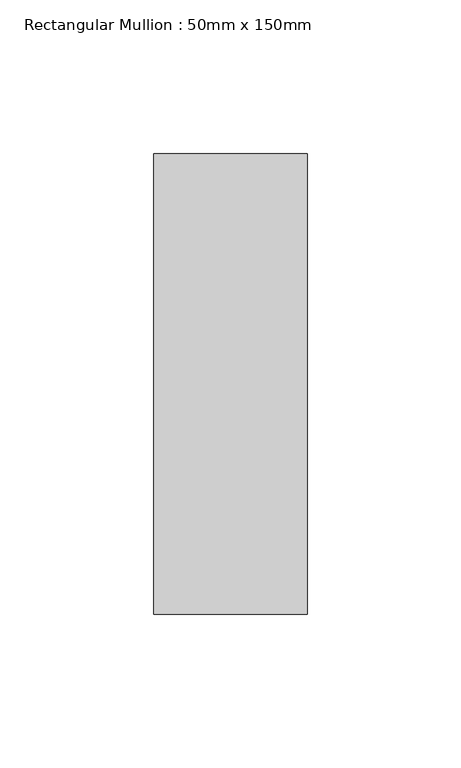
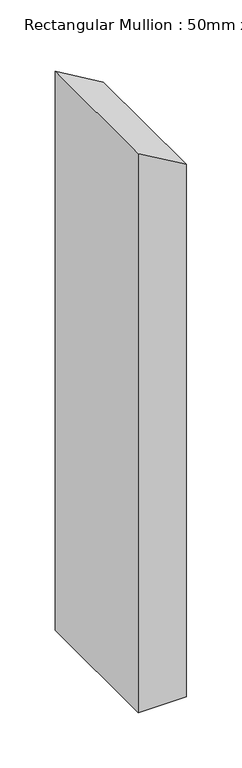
"""IFC4 building model written with IfcOpenShell, lengths in millimetres: member geometry, Rectangular Mullion : 50mm x 150mm."""

from ifc_helpers import new_model, si_unit, frame, origin, place, context, project, spatial, polyline, outline, extrude, source, transform, mapped, element, save


def rectangular_mullion_50mm_x_150mm_a76007e2(model_context):
    return source(origin(), model_context, "Body", "SweptSolid", [
        extrude(outline(polyline([(-72.7372881, 25.0), (-43.3033439, -25.0), (-659.844629, -25.0), (-659.844629, 25.0), (-72.7372881, 25.0)])), frame((0.0, -75.0, 0.0), z_axis=(0.0, 1.0, 0.0), x_axis=(0.0, 0.0, 1.0)), (0.0, 0.0, 1.0), 150.0),
    ])


if __name__ == "__main__":
    model = new_model("IFC4")
    model_context = context("Model", 3, world=origin())
    ifc_project = project(units=[si_unit("LENGTHUNIT", "METRE", prefix="MILLI")], contexts=[model_context])
    site = spatial("IfcSite", under=ifc_project)
    building = spatial("IfcBuilding", under=site)
    placement = place(None, origin())
    rectangular_mullion_50mm_x_150mm_shape = rectangular_mullion_50mm_x_150mm_a76007e2(model_context)
    element("IfcMember", 1, ObjectType="Rectangular Mullion : 50mm x 150mm", at=placement, inside=building, context=model_context, shape_type="MappedRepresentation", body=[
        mapped(rectangular_mullion_50mm_x_150mm_shape, transform((0.0, 0.0, 0.0), x_axis=(1.0, 0.0, 0.0), y_axis=(0.0, 1.0, 0.0), z_axis=(0.0, 0.0, 1.0))),
    ])
    save(model, "model.ifc")
